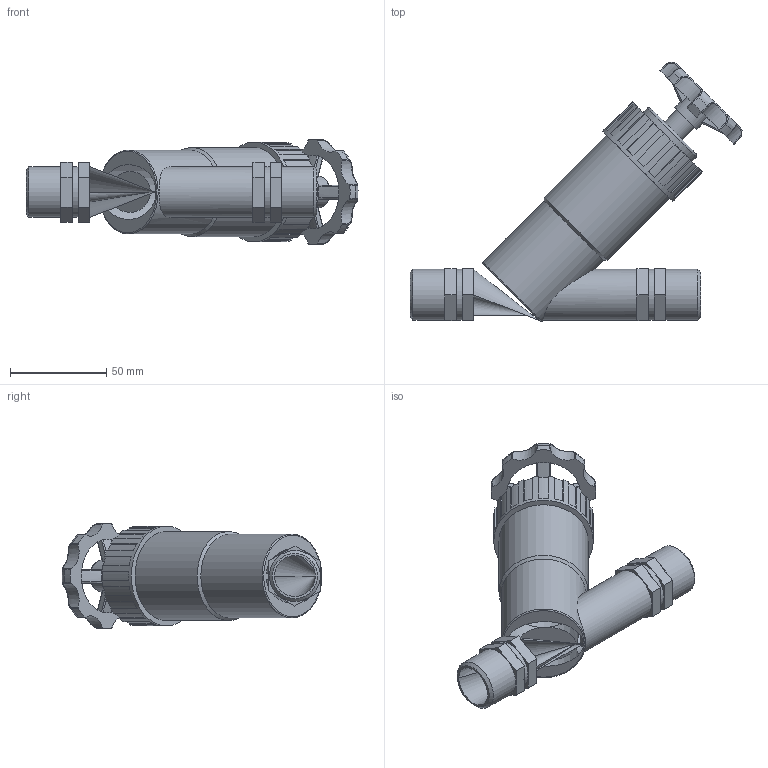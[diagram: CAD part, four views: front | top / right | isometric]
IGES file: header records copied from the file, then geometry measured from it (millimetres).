
Global section: file name: 03047077_030470770A_03049077.ipt; native system: Autodesk Inventor 2015; preprocessor: unknown; author: KIM; date: 20170619.121253; units: millimetre
Bounding box: 172.49 x 134.79 x 54.43 mm (x, y, z)
Volume: 4513.2 mm3; surface area: 45768.4 mm2
Topology: 1 solids, 4 shells, 221 faces, 595 edges, 385 vertices
Faces by surface type: plane 110, cylinder 57, bspline 25, revolution 22, cone 7
Full cylindrical faces by diameter (mm): 13.068 x1, 16.335 x1, 26.441 x6, 35.937 x1, 43.56 x1, 46.282 x1, 51.727 x1
